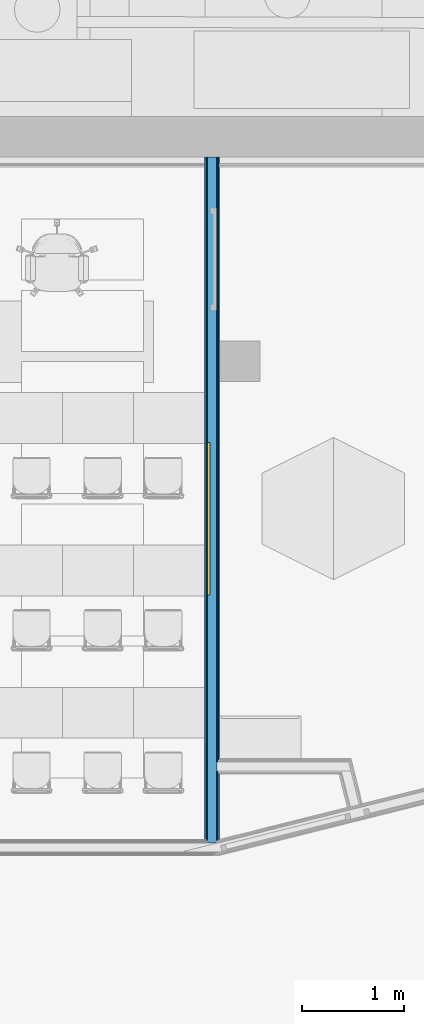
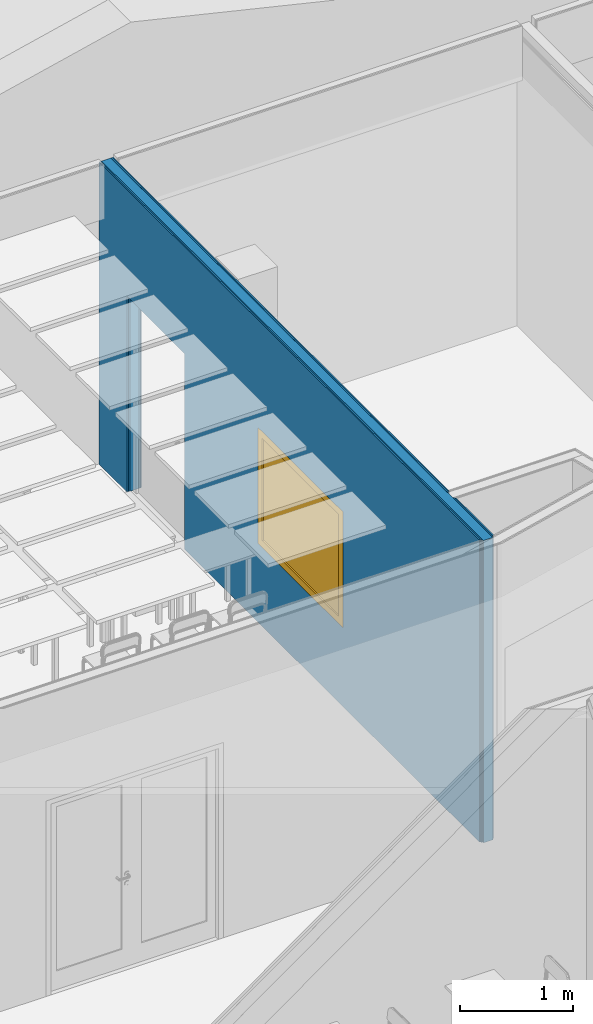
# One storey, part 54 of 153: 5 building element parts, 1 window, 2 openings, 1 element without a shape of its own.
"""IFC2X3 building model written with IfcOpenShell, lengths in millimetres."""

from ifc_helpers import new_model, entity, si_unit, converted_unit, derived_unit, money_unit, direction, frame, origin_with_axes, place, context, subcontext, project, spatial, open_shell, faceted_brep, surface_model, material, type_object, element, fill, aggregate, save


model = new_model("IFC2X3")

# Units and contexts
model_context = context("Model", 3, precision=0.01, world=origin_with_axes(), true_north=direction((0.0, 1.0)))
body_context = subcontext(model_context, "Body", "Model", "MODEL_VIEW")
ifc_project = project(units=[si_unit("LENGTHUNIT", "METRE", prefix="MILLI"), si_unit("AREAUNIT", "SQUARE_METRE"), si_unit("VOLUMEUNIT", "CUBIC_METRE"), converted_unit("PLANEANGLEUNIT", "DEGREE", entity("IfcPlaneAngleMeasure", 0.0174532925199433), si_unit("PLANEANGLEUNIT", "RADIAN"), dimensions=[0, 0, 0, 0, 0, 0, 0]), money_unit("EUR"), converted_unit("TIMEUNIT", "Year", entity("IfcTimeMeasure", 31557600.0), si_unit("TIMEUNIT", "SECOND"), dimensions=[0, 0, 1, 0, 0, 0, 0]), si_unit("MASSUNIT", "GRAM", prefix="KILO"), si_unit("THERMODYNAMICTEMPERATUREUNIT", "DEGREE_CELSIUS"), si_unit("LUMINOUSINTENSITYUNIT", "LUMEN"), si_unit("ENERGYUNIT", "JOULE", prefix="MEGA"), derived_unit("THERMALCONDUCTANCEUNIT", [(si_unit("POWERUNIT", "WATT"), 1), (si_unit("LENGTHUNIT", "METRE"), -1), (si_unit("THERMODYNAMICTEMPERATUREUNIT", "KELVIN"), -1)]), derived_unit("SPECIFICHEATCAPACITYUNIT", [(si_unit("ENERGYUNIT", "JOULE"), 1), (si_unit("MASSUNIT", "GRAM", prefix="KILO"), -1), (si_unit("THERMODYNAMICTEMPERATUREUNIT", "KELVIN"), -1)]), derived_unit("MASSDENSITYUNIT", [(si_unit("MASSUNIT", "GRAM", prefix="KILO"), 1), (si_unit("VOLUMEUNIT", "CUBIC_METRE"), -1)])], contexts=[model_context])

# Site, building, storey
site_placement = place(None, frame((0.0, 0.0, 8650.0), z_axis=(0.0, 0.0, 1.0), x_axis=(1.0, 0.0, 0.0)))
site = spatial("IfcSite", under=ifc_project, at=site_placement, Name="43301:001:0844", CompositionType="ELEMENT")
building_placement = place(site_placement, origin_with_axes())
building = spatial("IfcBuilding", under=site, at=building_placement, Name="Kuressaare Ametikooli tuulikute mehaanikute õppekorpus", CompositionType="ELEMENT")
storey_placement = place(building_placement, frame((0.0, 0.0, 4100.0), z_axis=(0.0, 0.0, 1.0), x_axis=(1.0, 0.0, 0.0)))
storey = spatial("IfcBuildingStorey", under=building, at=storey_placement, Name="2.korrus", CompositionType="ELEMENT", Elevation=4100.0)

# Window
window_style = type_object("IfcWindowStyle", Name="Window 27", ConstructionType="NOTDEFINED", OperationType="SINGLE_PANEL", ParameterTakesPrecedence=False, Sizeable=False)
wall_placement = place(storey_placement, frame((95668.06835714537, 25783.06892395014, 0.0), z_axis=(0.0, 0.0, 1.0), x_axis=(0.0, -1.0, 0.0)))
opening_1_placement = place(wall_placement, frame((3559.000000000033, 0.0, 849.9999999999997), z_axis=(0.0, 0.0, 1.0), x_axis=(1.0, 0.0, 0.0)))
window_placement = place(opening_1_placement, frame((750.0, 0.0, 0.0), z_axis=(0.0, 0.0, 1.0), x_axis=(-1.0, 0.0, 0.0)))
window = element("IfcWindow", 1, at=window_placement, inside=storey, type_object=window_style, Name="SA-06,EI30", OverallHeight=1250.0, OverallWidth=1500.0, context=body_context, shape_type="SurfaceModel", body=[
    faceted_brep([(74.99999999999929, 91.99999999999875, 1175.0), (74.99999999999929, 147.0000000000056, 1175.0), (0.0, 147.0000000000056, 1175.0), (0.0, 91.99999999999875, 1175.0), (74.99999999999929, 91.99999999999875, 75.00000000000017), (74.99999999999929, 147.0000000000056, 75.00000000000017), (0.0, 147.0000000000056, 75.00000000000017), (0.0, 91.99999999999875, 75.00000000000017)], [[[0, 1, 2, 3]], [[4, 5, 1, 0]], [[1, 5, 6, 2]], [[3, 2, 6, 7]], [[0, 3, 7, 4]], [[7, 6, 5, 4]]]),
    faceted_brep([(1425.000000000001, 91.99999999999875, 75.00000000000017), (1425.000000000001, 147.0000000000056, 75.00000000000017), (1500.0, 147.0000000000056, 75.00000000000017), (1500.0, 91.99999999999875, 75.00000000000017), (1425.000000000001, 91.99999999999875, 1175.0), (1425.000000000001, 147.0000000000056, 1175.0), (1500.0, 147.0000000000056, 1175.0), (1500.0, 91.99999999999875, 1175.0)], [[[0, 1, 2, 3]], [[4, 5, 1, 0]], [[1, 5, 6, 2]], [[3, 2, 6, 7]], [[0, 3, 7, 4]], [[7, 6, 5, 4]]]),
    faceted_brep([(74.99999999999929, 91.99999999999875, 75.00000000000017), (74.99999999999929, 147.0000000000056, 75.00000000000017), (0.0, 147.0000000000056, 75.00000000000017), (0.0, 91.99999999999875, 75.00000000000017), (1425.000000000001, 91.99999999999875, 75.00000000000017), (1425.000000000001, 147.0000000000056, 75.00000000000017), (1500.0, 147.0000000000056, 75.00000000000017), (1500.0, 147.0000000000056, 0.0), (0.0, 147.0000000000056, 0.0), (0.0, 91.99999999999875, 0.0), (1500.0, 91.99999999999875, 0.0), (1500.0, 91.99999999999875, 75.00000000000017)], [[[0, 1, 2, 3]], [[4, 5, 1, 0]], [[1, 5, 6, 7, 8, 2]], [[3, 2, 8, 9]], [[0, 3, 9, 10, 11, 4]], [[11, 6, 5, 4]], [[10, 7, 6, 11]], [[9, 8, 7, 10]]]),
    faceted_brep([(1425.000000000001, 91.99999999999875, 1175.0), (1425.000000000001, 147.0000000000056, 1175.0), (1500.0, 147.0000000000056, 1175.0), (1500.0, 91.99999999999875, 1175.0), (74.99999999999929, 91.99999999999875, 1175.0), (74.99999999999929, 147.0000000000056, 1175.0), (0.0, 147.0000000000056, 1175.0), (0.0, 147.0000000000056, 1250.0), (1500.0, 147.0000000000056, 1250.0), (1500.0, 91.99999999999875, 1250.0), (0.0, 91.99999999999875, 1250.0), (0.0, 91.99999999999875, 1175.0)], [[[0, 1, 2, 3]], [[4, 5, 1, 0]], [[1, 5, 6, 7, 8, 2]], [[3, 2, 8, 9]], [[0, 3, 9, 10, 11, 4]], [[11, 6, 5, 4]], [[10, 7, 6, 11]], [[9, 8, 7, 10]]]),
    surface_model("IfcShellBasedSurfaceModel", [(74.99999999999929, 112.000000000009, 75.00000000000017), (1425.000000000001, 112.000000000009, 75.00000000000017), (1425.000000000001, 112.000000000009, 1175.0), (74.99999999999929, 112.000000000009, 1175.0)], [open_shell([[[0, 1, 2, 3]]])]),
    surface_model("IfcShellBasedSurfaceModel", [(74.99999999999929, 132.000000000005, 75.00000000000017), (74.99999999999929, 132.000000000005, 1175.0), (1425.000000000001, 132.000000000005, 1175.0), (1425.000000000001, 132.000000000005, 75.00000000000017)], [open_shell([[[0, 1, 2, 3]]])]),
])

# Wall, opening
wall_type = type_object("IfcWallType", Name="SS-2.1 147", PredefinedType="NOTDEFINED")
wall = element("IfcWall", 2, at=wall_placement, inside=storey, type_object=wall_type, Name="Sisesein")
opening_1 = element("IfcOpeningElement", 3, at=opening_1_placement, cuts=wall, Name="SA-06,EI30", context=body_context, shape_type="Brep", body=[
    faceted_brep([(750.0, 1.000000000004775, 1250.0), (750.0, 1.000000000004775, 0.0), (-750.0, 1.000000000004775, 0.0), (-750.0, 1.000000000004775, 1250.0), (750.0, -148.0000000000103, 1250.0), (750.0, -148.0000000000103, 0.0), (-750.0, -148.0000000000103, 0.0), (-750.0, -148.0000000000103, 1250.0)], [[[0, 1, 2, 3]], [[4, 5, 1, 0]], [[5, 6, 2, 1]], [[6, 7, 3, 2]], [[7, 4, 0, 3]], [[6, 5, 4, 7]]]),
])

fill(opening_1, window)

# Opening
opening_2_placement = place(wall_placement, frame((1004.999999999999, 0.0, 0.0), z_axis=(0.0, 0.0, 1.0), x_axis=(1.0, 0.0, 0.0)))
element("IfcOpeningElement", 4, at=opening_2_placement, cuts=wall, Name="PU10,EI30,dB", context=body_context, shape_type="Brep", body=[
    faceted_brep([(-504.999999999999, -148.0000000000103, 2110.0), (-504.999999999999, -148.0000000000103, 0.0), (504.999999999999, -148.0000000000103, 0.0), (504.999999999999, -148.0000000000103, 2110.0), (-504.999999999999, 1.000000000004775, 2110.0), (-504.999999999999, 1.000000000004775, 0.0), (504.999999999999, 1.000000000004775, 0.0), (504.999999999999, 1.000000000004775, 2110.0)], [[[0, 1, 2, 3]], [[4, 5, 1, 0]], [[5, 6, 2, 1]], [[6, 7, 3, 2]], [[7, 4, 0, 3]], [[6, 5, 4, 7]]]),
])

# Building element part
ifc_material_1 = material(Name="Kipsplaat")
building_element_part_1_placement = place(wall_placement, origin_with_axes())
building_element_part_1 = element("IfcBuildingElementPart", 5, at=building_element_part_1_placement, material=ifc_material_1, Name="Kipsplaat", context=body_context, shape_type="Brep", body=[
    faceted_brep([(1509.999999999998, -0.00157461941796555, 0.0), (1509.999999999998, -0.006189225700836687, 2110.0), (500.0, -0.006189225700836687, 2110.0), (500.0, -0.0005213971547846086, 0.0), (0.0, 0.0, 0.0), (0.0, 0.0, 3259.999999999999), (5935.231546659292, -0.006189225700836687, 3259.999999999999), (5935.231546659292, -0.006189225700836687, 0.0), (4309.000000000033, 0.0, 2100.0), (2809.000000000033, 0.0, 2100.0), (2809.000000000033, 0.0, 849.9999999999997), (4309.000000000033, 0.0, 849.9999999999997), (1509.999999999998, -13.00000000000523, 0.0), (1509.999999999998, -13.00000000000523, 2110.0), (500.0, -13.00000000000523, 2110.0), (500.0, -13.00000000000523, 0.0), (0.0, -13.00000000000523, 0.0), (0.0, -13.00000000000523, 3259.999999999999), (5935.231546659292, -13.00000000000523, 3259.999999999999), (5935.231546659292, -13.00000000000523, 0.0), (4309.000000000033, -13.00000000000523, 2100.0), (2809.000000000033, -13.00000000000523, 2100.0), (2809.000000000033, -13.00000000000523, 849.9999999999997), (4309.000000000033, -13.00000000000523, 849.9999999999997)], [[[0, 1, 2, 3, 4, 5, 6, 7], [8, 9, 10, 11]], [[1, 0, 12, 13]], [[2, 1, 13, 14]], [[3, 2, 14, 15]], [[3, 15, 16, 4]], [[5, 4, 16, 17]], [[6, 5, 17, 18]], [[6, 18, 19, 7]], [[12, 0, 7, 19]], [[8, 20, 21, 9]], [[9, 21, 22, 10]], [[10, 22, 23, 11]], [[11, 23, 20, 8]], [[13, 12, 19, 18, 17, 16, 15, 14], [22, 21, 20, 23]]]),
    faceted_brep([(6056.231546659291, -13.00000000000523, 3259.999999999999), (6720.941025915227, -13.00000000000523, 3259.999999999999), (6717.684413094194, -0.007005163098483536, 3259.999999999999), (6056.231546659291, -0.006315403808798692, 3259.999999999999), (6056.231546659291, -13.00000000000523, 0.0), (6720.941025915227, -13.00000000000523, 0.0), (6717.684413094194, -0.007005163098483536, 0.0), (6056.231546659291, -0.006315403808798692, 0.0)], [[[0, 1, 2, 3]], [[4, 5, 1, 0]], [[5, 6, 2, 1]], [[3, 2, 6, 7]], [[4, 0, 3, 7]], [[7, 6, 5, 4]]]),
])

building_element_part_2_placement = place(wall_placement, origin_with_axes())
building_element_part_2 = element("IfcBuildingElementPart", 6, at=building_element_part_2_placement, material=ifc_material_1, Name="Kipsplaat", context=body_context, shape_type="Brep", body=[
    faceted_brep([(1509.999999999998, -13.00000000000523, 0.0), (1509.999999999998, -13.00000000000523, 2110.0), (500.0, -13.00000000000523, 2110.0), (500.0, -13.00000000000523, 0.0), (0.0, -13.00000000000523, 0.0), (0.0, -13.00000000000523, 3259.999999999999), (5948.231546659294, -13.00000000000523, 3259.999999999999), (5948.231546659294, -13.00000000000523, 0.0), (4309.000000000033, -13.00000000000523, 2100.0), (2809.000000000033, -13.00000000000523, 2100.0), (2809.000000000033, -13.00000000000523, 849.9999999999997), (4309.000000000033, -13.00000000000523, 849.9999999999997), (1509.999999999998, -25.99999999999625, 0.0), (1509.999999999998, -25.99999999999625, 2110.0), (500.0, -25.99999999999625, 2110.0), (500.0, -25.99999999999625, 0.0), (0.0, -25.99999999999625, 0.0), (0.0, -25.99999999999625, 3259.999999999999), (5948.231546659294, -25.99999999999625, 3259.999999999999), (5948.231546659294, -25.99999999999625, 0.0), (4309.000000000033, -25.99999999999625, 2100.0), (2809.000000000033, -25.99999999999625, 2100.0), (2809.000000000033, -25.99999999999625, 849.9999999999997), (4309.000000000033, -25.99999999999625, 849.9999999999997)], [[[0, 1, 2, 3, 4, 5, 6, 7], [8, 9, 10, 11]], [[1, 0, 12, 13]], [[2, 1, 13, 14]], [[3, 2, 14, 15]], [[3, 15, 16, 4]], [[5, 4, 16, 17]], [[6, 5, 17, 18]], [[6, 18, 19, 7]], [[12, 0, 7, 19]], [[8, 20, 21, 9]], [[9, 21, 22, 10]], [[10, 22, 23, 11]], [[11, 23, 20, 8]], [[13, 12, 19, 18, 17, 16, 15, 14], [22, 21, 20, 23]]]),
    faceted_brep([(6043.231546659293, -25.99999999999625, 3259.999999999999), (6735.231546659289, -25.99999999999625, 3259.999999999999), (6735.231546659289, -16.54445442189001, 3259.999999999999), (6734.343151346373, -13.00000000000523, 3259.999999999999), (6043.231546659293, -13.00000000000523, 3259.999999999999), (6043.231546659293, -25.99999999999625, 0.0), (6735.231546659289, -25.99999999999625, 0.0), (6735.231546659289, -16.54445442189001, 0.0), (6734.343151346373, -13.00000000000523, 0.0), (6043.231546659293, -13.00000000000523, 0.0)], [[[0, 1, 2, 3, 4]], [[5, 6, 1, 0]], [[7, 2, 1, 6]], [[7, 8, 3, 2]], [[4, 3, 8, 9]], [[5, 0, 4, 9]], [[8, 7, 6, 5, 9]]]),
])

building_element_part_3_placement = place(wall_placement, origin_with_axes())
building_element_part_3 = element("IfcBuildingElementPart", 7, at=building_element_part_3_placement, material=ifc_material_1, Name="Kipsplaat", context=body_context, shape_type="Brep", body=[
    faceted_brep([(1509.999999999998, -120.9999999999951, 0.0), (1509.999999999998, -120.9999999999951, 2110.0), (500.0, -120.9999999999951, 2110.0), (500.0, -120.9999999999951, 0.0), (0.0, -120.9999999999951, 0.0), (0.0, -120.9999999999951, 3259.999999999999), (6735.231546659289, -120.9999999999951, 3259.999999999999), (6735.231546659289, -120.9999999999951, 0.0), (4309.000000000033, -120.9999999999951, 2100.0), (2809.000000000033, -120.9999999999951, 2100.0), (2809.000000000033, -120.9999999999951, 849.9999999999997), (4309.000000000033, -120.9999999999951, 849.9999999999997), (1509.999999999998, -134.0000000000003, 0.0), (1509.999999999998, -134.0000000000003, 2110.0), (500.0, -134.0000000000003, 2110.0), (500.0, -134.0000000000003, 0.0), (0.0, -134.0000000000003, 0.0), (0.0, -134.0000000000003, 3259.999999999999), (6735.231546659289, -134.0000000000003, 3259.999999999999), (6735.231546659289, -134.0000000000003, 0.0), (4309.000000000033, -134.0000000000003, 2100.0), (2809.000000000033, -134.0000000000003, 2100.0), (2809.000000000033, -134.0000000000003, 849.9999999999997), (4309.000000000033, -134.0000000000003, 849.9999999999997)], [[[0, 1, 2, 3, 4, 5, 6, 7], [8, 9, 10, 11]], [[1, 0, 12, 13]], [[2, 1, 13, 14]], [[3, 2, 14, 15]], [[3, 15, 16, 4]], [[5, 4, 16, 17]], [[6, 5, 17, 18]], [[6, 18, 19, 7]], [[12, 0, 7, 19]], [[8, 20, 21, 9]], [[9, 21, 22, 10]], [[10, 22, 23, 11]], [[11, 23, 20, 8]], [[13, 12, 19, 18, 17, 16, 15, 14], [22, 21, 20, 23]]]),
])

ifc_material_2 = material(Name="Soojustus - Mineraalvill pehme")
building_element_part_4_placement = place(wall_placement, origin_with_axes())
building_element_part_4 = element("IfcBuildingElementPart", 8, at=building_element_part_4_placement, material=ifc_material_2, Name="Soojustus - Mineraalvill pehme", context=body_context, shape_type="Brep", body=[
    faceted_brep([(1509.999999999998, -25.99999999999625, 0.0), (1509.999999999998, -25.99999999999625, 2110.0), (500.0, -25.99999999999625, 2110.0), (500.0, -25.99999999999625, 0.0), (0.0, -25.99999999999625, 0.0), (0.0, -25.99999999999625, 3259.999999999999), (6748.231546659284, -25.99999999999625, 3259.999999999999), (6748.231546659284, -25.99999999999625, 0.0), (4309.000000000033, -25.99999999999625, 2100.0), (2809.000000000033, -25.99999999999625, 2100.0), (2809.000000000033, -25.99999999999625, 849.9999999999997), (4309.000000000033, -25.99999999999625, 849.9999999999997), (1509.999999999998, -120.9999999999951, 0.0), (1509.999999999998, -120.9999999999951, 2110.0), (500.0, -120.9999999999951, 2110.0), (500.0, -120.9999999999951, 0.0), (0.0, -120.9999999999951, 0.0), (0.0, -120.9999999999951, 3259.999999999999), (6748.231546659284, -120.9999999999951, 3259.999999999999), (6748.231546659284, -120.9999999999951, 0.0), (4309.000000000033, -120.9999999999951, 2100.0), (2809.000000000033, -120.9999999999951, 2100.0), (2809.000000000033, -120.9999999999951, 849.9999999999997), (4309.000000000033, -120.9999999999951, 849.9999999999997)], [[[0, 1, 2, 3, 4, 5, 6, 7], [8, 9, 10, 11]], [[1, 0, 12, 13]], [[2, 1, 13, 14]], [[3, 2, 14, 15]], [[3, 15, 16, 4]], [[5, 4, 16, 17]], [[6, 5, 17, 18]], [[6, 18, 19, 7]], [[12, 0, 7, 19]], [[8, 20, 21, 9]], [[9, 21, 22, 10]], [[10, 22, 23, 11]], [[11, 23, 20, 8]], [[13, 12, 19, 18, 17, 16, 15, 14], [22, 21, 20, 23]]]),
])

building_element_part_5_placement = place(wall_placement, origin_with_axes())
building_element_part_5 = element("IfcBuildingElementPart", 9, at=building_element_part_5_placement, material=ifc_material_1, Name="Kipsplaat", context=body_context, shape_type="Brep", body=[
    faceted_brep([(1509.999999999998, -134.0000000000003, 0.0), (1509.999999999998, -134.0000000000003, 2110.0), (500.0, -134.0000000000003, 2110.0), (500.0, -134.0000000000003, 0.0), (0.0, -134.0000000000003, 0.0), (0.0, -134.0000000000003, 3259.999999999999), (6722.231546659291, -134.0000000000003, 3259.999999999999), (6722.231546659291, -134.0000000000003, 0.0), (4309.000000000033, -134.0000000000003, 2100.0), (2809.000000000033, -134.0000000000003, 2100.0), (2809.000000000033, -134.0000000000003, 849.9999999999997), (4309.000000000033, -134.0000000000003, 849.9999999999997), (1509.999999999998, -147.0000000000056, 0.0), (1509.999999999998, -147.0000000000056, 2110.0), (500.0, -147.0000000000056, 2110.0), (500.0, -147.0000000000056, 0.0), (0.0, -147.0000000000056, 0.0), (0.0, -147.0000000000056, 3259.999999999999), (6722.231546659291, -147.0000000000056, 3259.999999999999), (6722.231546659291, -147.0000000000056, 0.0), (4309.000000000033, -147.0000000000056, 2100.0), (2809.000000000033, -147.0000000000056, 2100.0), (2809.000000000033, -147.0000000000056, 849.9999999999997), (4309.000000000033, -147.0000000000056, 849.9999999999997)], [[[0, 1, 2, 3, 4, 5, 6, 7], [8, 9, 10, 11]], [[1, 0, 12, 13]], [[2, 1, 13, 14]], [[3, 2, 14, 15]], [[3, 15, 16, 4]], [[5, 4, 16, 17]], [[6, 5, 17, 18]], [[6, 18, 19, 7]], [[12, 0, 7, 19]], [[8, 20, 21, 9]], [[9, 21, 22, 10]], [[10, 22, 23, 11]], [[11, 23, 20, 8]], [[13, 12, 19, 18, 17, 16, 15, 14], [22, 21, 20, 23]]]),
])

aggregate(wall, [building_element_part_1, building_element_part_2, building_element_part_3, building_element_part_4, building_element_part_5])

save(model, "model.ifc")
